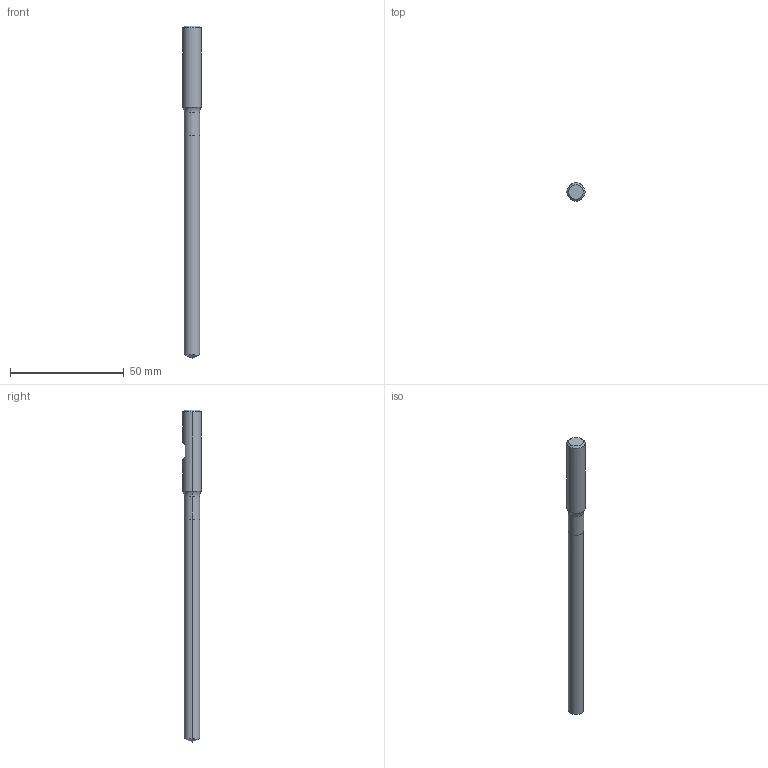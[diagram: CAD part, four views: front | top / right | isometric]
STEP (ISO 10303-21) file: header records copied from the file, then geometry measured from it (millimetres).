
FILE_DESCRIPTION (( 'STEP AP214' ), '1' );
FILE_NAME ('710.067.10_3D-model.step', '2022-02-22T17:32:54', ( '' ), ( '' ), 'SwSTEP 2.0', 'SolidWorks 2020', '' );
FILE_SCHEMA (( 'AUTOMOTIVE_DESIGN' ));
Length unit declared in the file: millimetre
Products named in the file (3): CUT-3D^Baugr112; 710.067.10_3D-model; NOCUT-3D^Baugr112
Assembly tree (2 placements, depth 2):
  710.067.10_3D-model
    CUT-3D^Baugr112
    NOCUT-3D^Baugr112
Bounding box: 8 x 8 x 146 mm (x, y, z)
Volume: 5628.4 mm3; surface area: 3342.1 mm2
Topology: 2 solids, 2 shells, 20 faces, 38 edges, 21 vertices
Faces by surface type: cone 6, cylinder 6, plane 6, torus 2
Entity records: 608 total; most frequent: DIRECTION 108, CARTESIAN_POINT 91, ORIENTED_EDGE 72, AXIS2_PLACEMENT_3D 46, EDGE_CURVE 36, VERTEX_POINT 21, EDGE_LOOP 21, FACE_OUTER_BOUND 20
